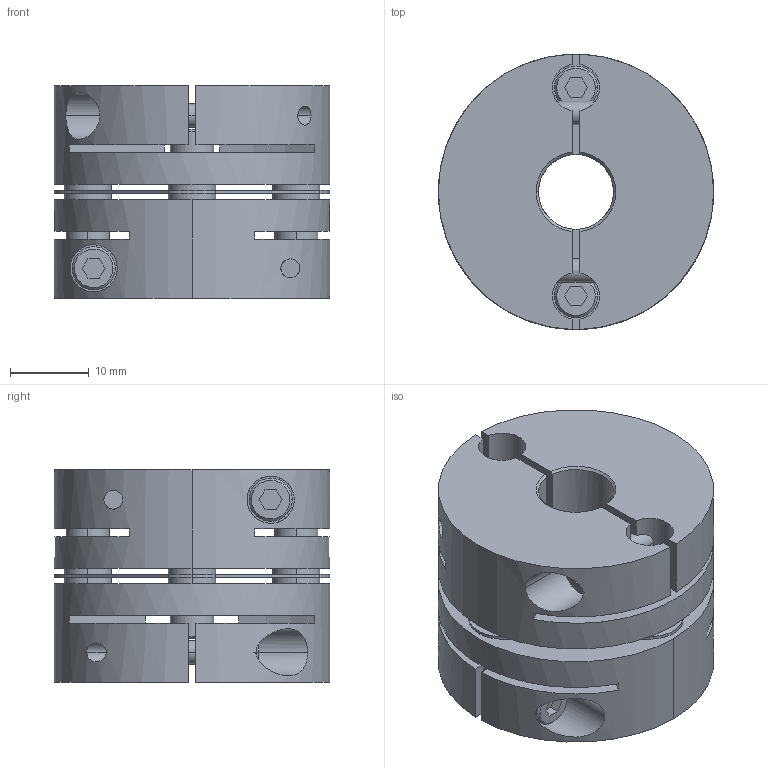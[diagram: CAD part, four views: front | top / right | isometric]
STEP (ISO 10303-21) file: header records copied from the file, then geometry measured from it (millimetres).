
FILE_DESCRIPTION((''),'2;1');
FILE_NAME('LAS-35C-9.525×14.stp','2015-10-14T15:30:24',(''),(''),'AutoCAD STEP 2000i','AutoCAD 2000i',', , ');
FILE_SCHEMA(('CONFIG_CONTROL_DESIGN'));
Length unit declared in the file: millimetre
Products named in the file (6): LAS-35C-8×14; 忣兜1; LA-3502-D14; LA-3502-D08-1; LA-3502-D08; LAS35-ITA
Assembly tree (5 placements, depth 2):
  LAS-35C-8×14
    忣兜1
    LA-3502-D14
    LA-3502-D08-1
    LA-3502-D08
    LAS35-ITA
Bounding box: 35 x 35 x 27 mm (x, y, z)
Volume: 19172.8 mm3; surface area: 11906.1 mm2
Topology: 1 solids, 1 shells, 236 faces, 624 edges, 408 vertices
Faces by surface type: plane 112, cylinder 96, cone 28
Entity records: 8251 total; most frequent: CARTESIAN_POINT 2068, DIRECTION 1288, ORIENTED_EDGE 1248, EDGE_CURVE 624, AXIS2_PLACEMENT_3D 470, VERTEX_POINT 408, VECTOR 348, LINE 348
